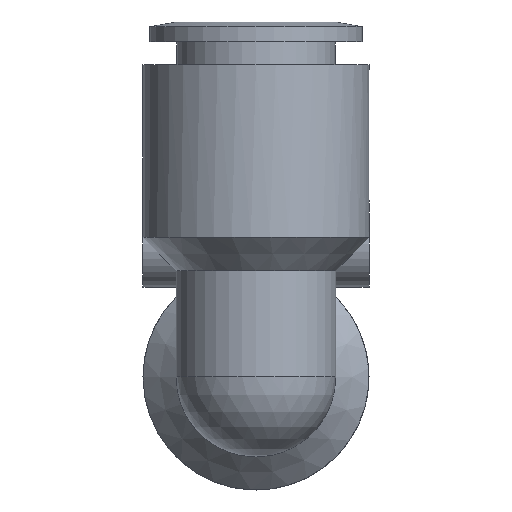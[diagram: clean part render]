
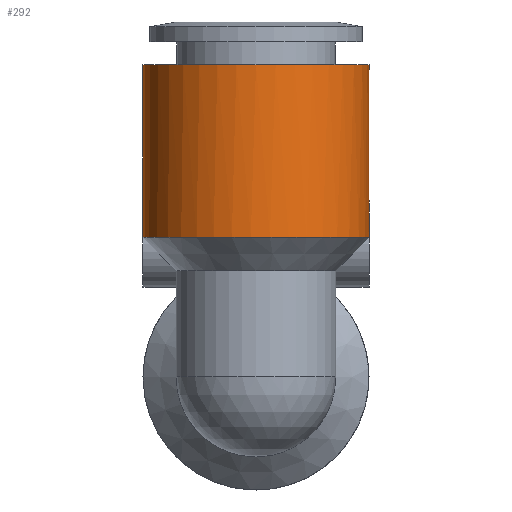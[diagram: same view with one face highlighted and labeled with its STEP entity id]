
A CAD part, front view. The second image highlights one B-rep face of the part: STEP entity #292.
In plain terms, the highlighted cylindrical face has radius 8.5 mm (diameter 17 mm), a full revolution.
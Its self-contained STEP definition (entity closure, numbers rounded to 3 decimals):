
#112=CARTESIAN_POINT('',(-5.115,6.789,10.5));
#113=VERTEX_POINT('',#112);
#114=CARTESIAN_POINT('',(5.115,6.789,10.5));
#115=VERTEX_POINT('',#114);
#135=CARTESIAN_POINT('',(5.115,6.789,10.5));
#136=CARTESIAN_POINT('',(5.054,6.835,10.796));
#137=CARTESIAN_POINT('',(4.934,6.924,11.08));
#138=CARTESIAN_POINT('',(4.78,7.028,11.316));
#139=CARTESIAN_POINT('',(4.619,7.138,11.563));
#140=CARTESIAN_POINT('',(4.43,7.259,11.758));
#141=CARTESIAN_POINT('',(4.216,7.381,11.924));
#142=CARTESIAN_POINT('',(3.78,7.63,12.263));
#143=CARTESIAN_POINT('',(3.246,7.88,12.475));
#144=CARTESIAN_POINT('',(2.66,8.073,12.617));
#145=CARTESIAN_POINT('',(2.064,8.27,12.762));
#146=CARTESIAN_POINT('',(1.413,8.407,12.833));
#147=CARTESIAN_POINT('',(0.767,8.465,12.865));
#148=CARTESIAN_POINT('',(0.503,8.489,12.878));
#149=CARTESIAN_POINT('',(0.241,8.501,12.883));
#150=CARTESIAN_POINT('',(-0.018,8.5,12.883));
#151=CARTESIAN_POINT('',(-0.652,8.499,12.882));
#152=CARTESIAN_POINT('',(-1.317,8.423,12.847));
#153=CARTESIAN_POINT('',(-1.949,8.273,12.753));
#154=CARTESIAN_POINT('',(-2.579,8.125,12.66));
#155=CARTESIAN_POINT('',(-3.177,7.904,12.51));
#156=CARTESIAN_POINT('',(-3.689,7.658,12.253));
#157=CARTESIAN_POINT('',(-4.024,7.496,12.085));
#158=CARTESIAN_POINT('',(-4.323,7.324,11.873));
#159=CARTESIAN_POINT('',(-4.572,7.166,11.59));
#160=CARTESIAN_POINT('',(-4.682,7.096,11.465));
#161=CARTESIAN_POINT('',(-4.784,7.027,11.324));
#162=CARTESIAN_POINT('',(-4.871,6.966,11.164));
#163=CARTESIAN_POINT('',(-4.982,6.888,10.963));
#164=CARTESIAN_POINT('',(-5.067,6.825,10.735));
#165=CARTESIAN_POINT('',(-5.115,6.789,10.5));
#166=B_SPLINE_CURVE_WITH_KNOTS('',3,(#135,#136,#137,#138,#139,#140,#141,#142,#143,#144,#145,#146,#147,#148,#149,#150,#151,#152,#153,#154,#155,#156,#157,#158,#159,#160,#161,#162,#163,#164,#165),.UNSPECIFIED.,.F.,.U.,(4,3,3,3,3,3,3,3,3,3,4),(-0.629,-0.542,-0.45,-0.265,-0.076,0.002,0.192,0.381,0.505,0.56,0.629),.UNSPECIFIED.);
#167=EDGE_CURVE('',#115,#113,#166,.T.);
#266=CARTESIAN_POINT('',(0.0,0.,17.0));
#267=DIRECTION('',(0.0,0.,1.0));
#268=DIRECTION('',(-1.0,0.0,0.0));
#269=AXIS2_PLACEMENT_3D('',#266,#267,#268);
#270=CYLINDRICAL_SURFACE('',#269,8.5);
#271=CARTESIAN_POINT('',(-8.5,0.,23.5));
#272=VERTEX_POINT('',#271);
#273=CARTESIAN_POINT('',(0.0,0.,23.5));
#274=DIRECTION('',(0.0,0.0,1.0));
#275=DIRECTION('',(-1.0,0.0,0.0));
#276=AXIS2_PLACEMENT_3D('',#273,#274,#275);
#277=CIRCLE('',#276,8.5);
#278=EDGE_CURVE('',#272,#272,#277,.T.);
#279=ORIENTED_EDGE('',*,*,#278,.F.);
#280=EDGE_LOOP('',(#279));
#281=FACE_OUTER_BOUND('',#280,.T.);
#282=ORIENTED_EDGE('',*,*,#167,.T.);
#283=CARTESIAN_POINT('',(0.0,0.,10.5));
#284=DIRECTION('',(0.0,0.0,1.0));
#285=DIRECTION('',(-1.0,0.0,0.0));
#286=AXIS2_PLACEMENT_3D('',#283,#284,#285);
#287=CIRCLE('',#286,8.5);
#288=EDGE_CURVE('',#113,#115,#287,.T.);
#289=ORIENTED_EDGE('',*,*,#288,.T.);
#290=EDGE_LOOP('',(#282,#289));
#291=FACE_BOUND('',#290,.T.);
#292=ADVANCED_FACE('',(#281,#291),#270,.T.);
